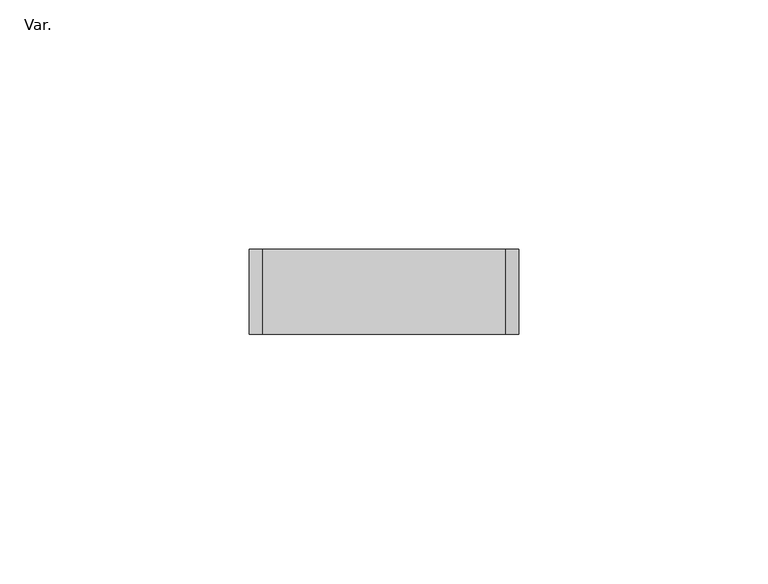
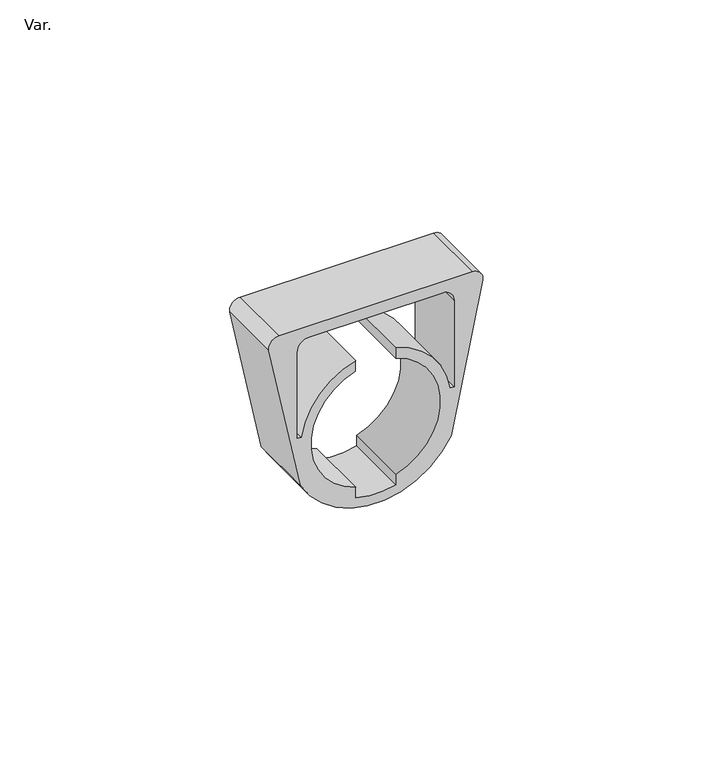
"""IFC4 building model written with IfcOpenShell, lengths in millimetres: proxy geometry, AmancoWavin_ConexõesdoConduite_LinhaEletricaElectroAmancoAbraçadeira : Var.."""

from ifc_helpers import new_model, si_unit, point, frame, frame_2d, origin, origin_2d, place, context, project, spatial, polyline, circle_curve, trimmed, segment, composite_curve, outline, extrude, source, transform, mapped, element, save


def var_9dea6c72(model_context):
    return source(origin(), model_context, "Body", "SweptSolid", [
        extrude(outline(composite_curve([segment(polyline([(28.6183241, -26.95), (-10.0968745, -18.925)]), True, "CONTINUOUS"), segment(trimmed(circle_curve(origin_2d(), 21.45), [point((-10.0968745, -18.925))], [point((-10.0968745, 18.925))], False, "CARTESIAN"), True, "CONTINUOUS"), segment(polyline([(-10.0968745, 18.925), (28.6183241, 26.95)]), True, "CONTINUOUS"), segment(trimmed(circle_curve(frame_2d((28.9151887, 24.2816516)), 2.6848113), [point((28.6183241, 26.95))], [point((31.6, 24.2816516))], False, "CARTESIAN"), True, "CONTINUOUS"), segment(polyline([(31.6, 24.2816516), (31.6, -24.2816516)]), True, "CONTINUOUS"), segment(trimmed(circle_curve(frame_2d((28.9151887, -24.2816516)), 2.6848113), [point((31.6, -24.2816516))], [point((28.6183241, -26.95))], False, "CARTESIAN"), True, "CONTINUOUS")], self_intersect=False), holes=[composite_curve([segment(trimmed(circle_curve(origin_2d(), 16.224), [point((-15.4343181, -5.0))], [point((15.4343181, -5.0))], True, "CARTESIAN"), True, "CONTINUOUS"), segment(polyline([(15.4343181, -5.0), (18.2525512, -5.0)]), True, "CONTINUOUS"), segment(trimmed(circle_curve(origin_2d(), 18.925), [point((18.2525512, -5.0))], [point((2.7, -18.7314074))], False, "CARTESIAN"), True, "CONTINUOUS"), segment(polyline([(2.7, -18.7314074), (2.7, -19.7314074), (25.6183241, -19.7314074)]), True, "CONTINUOUS"), segment(trimmed(circle_curve(frame_2d((25.6183241, -16.7314074)), 3.0), [point((25.6183241, -19.7314074))], [point((28.6183241, -16.7314074))], True, "CARTESIAN"), True, "CONTINUOUS"), segment(polyline([(28.6183241, -16.7314074), (28.6183241, 16.7314074)]), True, "CONTINUOUS"), segment(trimmed(circle_curve(frame_2d((25.6183241, 16.7314074)), 3.0), [point((28.6183241, 16.7314074))], [point((25.6183241, 19.7314074))], True, "CARTESIAN"), True, "CONTINUOUS"), segment(polyline([(25.6183241, 19.7314074), (2.7, 19.7314074), (2.7, 18.7314074)]), True, "CONTINUOUS"), segment(trimmed(circle_curve(origin_2d(), 18.925), [point((2.7, 18.7314074))], [point((18.2525512, 5.0))], False, "CARTESIAN"), True, "CONTINUOUS"), segment(polyline([(18.2525512, 5.0), (15.4343181, 5.0)]), True, "CONTINUOUS"), segment(trimmed(circle_curve(origin_2d(), 16.224), [point((15.4343181, 5.0))], [point((-15.4343181, 5.0))], True, "CARTESIAN"), True, "CONTINUOUS"), segment(polyline([(-15.4343181, 5.0), (-18.2525512, 5.0)]), True, "CONTINUOUS"), segment(trimmed(circle_curve(origin_2d(), 18.925), [point((-18.2525512, 5.0))], [point((-18.2525512, -5.0))], True, "CARTESIAN"), True, "CONTINUOUS"), segment(polyline([(-18.2525512, -5.0), (-15.4343181, -5.0)]), True, "CONTINUOUS")], self_intersect=False)]), frame((0.0, -8.5, 0.0), z_axis=(0.0, 1.0, 0.0), x_axis=(0.0, 0.0, 1.0)), (0.0, 0.0, 1.0), 17.0),
    ])


if __name__ == "__main__":
    model = new_model("IFC4")
    model_context = context("Model", 3, world=origin())
    ifc_project = project(units=[si_unit("LENGTHUNIT", "METRE", prefix="MILLI")], contexts=[model_context])
    site = spatial("IfcSite", under=ifc_project)
    building = spatial("IfcBuilding", under=site)
    placement = place(None, origin())
    var_shape = var_9dea6c72(model_context)
    element("IfcBuildingElementProxy", 1, Name="AmancoWavin_ConexõesdoConduite_LinhaEletricaElectroAmancoAbraçadeira : Var.", ObjectType="AmancoWavin_ConexõesdoConduite_LinhaEletricaElectroAmancoAbraçadeira : Var.", at=placement, inside=building, context=model_context, shape_type="MappedRepresentation", body=[
        mapped(var_shape, transform((0.0, 0.0, 0.0), x_axis=(1.0, 0.0, 0.0), y_axis=(0.0, 1.0, 0.0), z_axis=(0.0, 0.0, 1.0))),
    ])
    save(model, "model.ifc")
